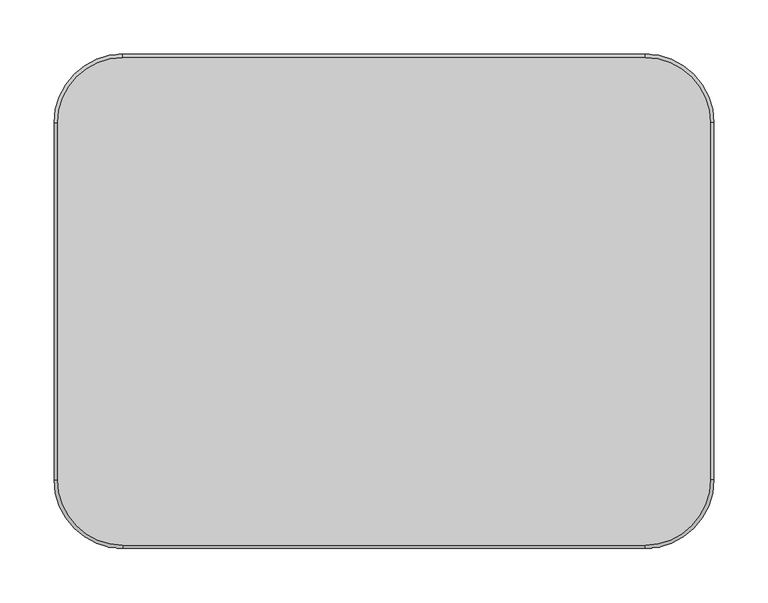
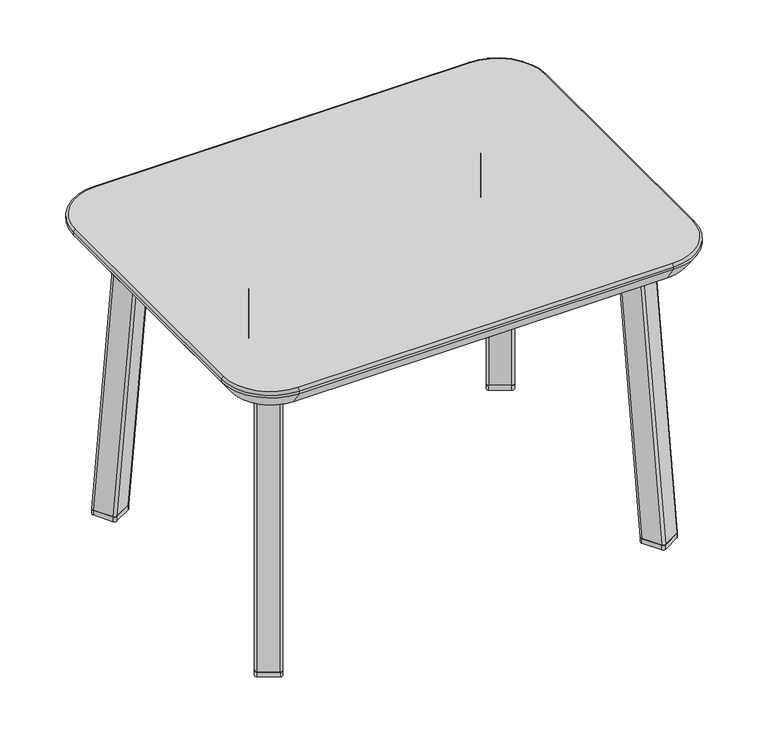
"""IFC4 building model written with IfcOpenShell, lengths in millimetres: furniture geometry, Stance_HC-Jensen-Occasional-Table : JETF182416-T."""

from ifc_helpers import new_model, si_unit, point, frame, frame_2d, origin, origin_with_axes, place, context, project, spatial, polyline, circle_curve, ellipse_curve, trimmed, segment, composite_curve, outline, extrude, source, transform, mapped, element, save
from ifc_brep_helpers import plane_surface, cylinder_surface, revolved_surface, extruded_surface, advanced_brep


def furniture_00482987(model_context):
    return source(origin(), model_context, "Body", "SolidModel", [
        extrude(outline(composite_curve([segment(polyline([(270.881574, -184.2321033), (248.8845247, -196.9321056)]), True, "CONTINUOUS"), segment(trimmed(circle_curve(frame_2d((247.2970247, -194.182475)), 3.175), [point((248.8845247, -196.9321056))], [point((244.547394, -195.769975))], False, "CARTESIAN"), True, "CONTINUOUS"), segment(polyline([(244.547394, -195.769975), (231.7983038, -173.687903)]), True, "CONTINUOUS"), segment(trimmed(circle_curve(frame_2d((234.5479345, -172.100403)), 3.175), [point((231.7983038, -173.687903))], [point((232.9604345, -169.3507723))], False, "CARTESIAN"), True, "CONTINUOUS"), segment(polyline([(232.9604345, -169.3507723), (254.9574838, -156.65077)]), True, "CONTINUOUS"), segment(trimmed(circle_curve(frame_2d((256.5449838, -159.4004007)), 3.175), [point((254.9574838, -156.65077))], [point((259.2946144, -157.8129007))], False, "CARTESIAN"), True, "CONTINUOUS"), segment(polyline([(259.2946144, -157.8129007), (272.0437046, -179.8949726)]), True, "CONTINUOUS"), segment(trimmed(circle_curve(frame_2d((269.294074, -181.4824726)), 3.175), [point((272.0437046, -179.8949726))], [point((270.881574, -184.2321033))], False, "CARTESIAN"), True, "CONTINUOUS")], self_intersect=False)), origin_with_axes(), (0.0, 0.0, 1.0), 6.35),
        extrude(outline(composite_curve([segment(polyline([(248.8845247, 196.9321056), (270.881574, 184.2321033)]), True, "CONTINUOUS"), segment(trimmed(circle_curve(frame_2d((269.294074, 181.4824726)), 3.175), [point((270.881574, 184.2321033))], [point((272.0437046, 179.8949726))], False, "CARTESIAN"), True, "CONTINUOUS"), segment(polyline([(272.0437046, 179.8949726), (259.2946144, 157.8129007)]), True, "CONTINUOUS"), segment(trimmed(circle_curve(frame_2d((256.5449838, 159.4004007)), 3.175), [point((259.2946144, 157.8129007))], [point((254.9574838, 156.65077))], False, "CARTESIAN"), True, "CONTINUOUS"), segment(polyline([(254.9574838, 156.65077), (232.9604345, 169.3507723)]), True, "CONTINUOUS"), segment(trimmed(circle_curve(frame_2d((234.5479345, 172.100403)), 3.175), [point((232.9604345, 169.3507723))], [point((231.7983038, 173.687903))], False, "CARTESIAN"), True, "CONTINUOUS"), segment(polyline([(231.7983038, 173.687903), (244.547394, 195.769975)]), True, "CONTINUOUS"), segment(trimmed(circle_curve(frame_2d((247.2970247, 194.182475)), 3.175), [point((244.547394, 195.769975))], [point((248.8845247, 196.9321056))], False, "CARTESIAN"), True, "CONTINUOUS")], self_intersect=False)), origin_with_axes(), (0.0, 0.0, 1.0), 6.35),
        advanced_brep(
        [(218.1120024, -143.6325373, 380.5094413), (216.9498717, -147.9696679, 380.5094413), (229.6989619, -170.0517399, 380.5094413), (234.0360926, -171.2138706, 380.5094413), (256.0331418, -158.5138683, 380.5094413), (257.1952725, -154.1767376, 380.5094413), (244.4461823, -132.0946656, 380.5094413), (240.1090516, -130.932535, 380.5094413), (232.9604345, -169.3507723, 6.35), (254.9574838, -156.65077, 6.35), (259.2946144, -157.8129007, 6.35), (272.0437046, -179.8949726, 6.35), (270.881574, -184.2321033, 6.35), (248.8845247, -196.9321056, 6.35), (244.547394, -195.769975, 6.35), (231.7983038, -173.687903, 6.35)],
        [
            (0, 1, circle_curve(frame((219.6995024, -146.3821679, 380.5094413), z_axis=(0.0, 0.0, 1.0), x_axis=(-1.0, 0.0, 0.0)), 3.175)),
            (1, 2),
            (2, 3, circle_curve(frame((232.4485926, -168.4642399, 380.5094413), z_axis=(0.0, 0.0, 1.0), x_axis=(-1.0, 0.0, 0.0)), 3.175)),
            (3, 4),
            (4, 5, circle_curve(frame((254.4456418, -155.7642376, 380.5094413), z_axis=(0.0, 0.0, 1.0), x_axis=(-1.0, 0.0, 0.0)), 3.175)),
            (5, 6),
            (6, 7, circle_curve(frame((241.6965516, -133.6821656, 380.5094413), z_axis=(0.0, 0.0, 1.0), x_axis=(-1.0, 0.0, 0.0)), 3.175)),
            (7, 0),
            (8, 9),
            (9, 10, circle_curve(frame((256.5449838, -159.4004007, 6.35), z_axis=(0.0, 0.0, -1.0), x_axis=(-1.0, 0.0, 0.0)), 3.175)),
            (10, 11),
            (11, 12, circle_curve(frame((269.294074, -181.4824726, 6.35), z_axis=(0.0, 0.0, -1.0), x_axis=(-1.0, 0.0, 0.0)), 3.175)),
            (12, 13),
            (13, 14, circle_curve(frame((247.2970247, -194.182475, 6.35), z_axis=(0.0, 0.0, -1.0), x_axis=(-1.0, 0.0, 0.0)), 3.175)),
            (14, 15),
            (15, 8, circle_curve(frame((234.5479345, -172.100403, 6.35), z_axis=(0.0, 0.0, -1.0), x_axis=(-1.0, 0.0, 0.0)), 3.175)),
            (15, 1),
            (0, 8),
            (14, 2),
            (13, 3),
            (12, 4),
            (11, 5),
            (10, 6),
            (9, 7),
        ],
        [
            plane_surface(frame((237.0725721, -151.0732028, 380.5094413), z_axis=(0.0, 0.0, 1.0000000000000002), x_axis=(0.8660254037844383, 0.5000000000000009, 0.0))),
            plane_surface(frame((251.9210042, -176.7914378, 6.35), z_axis=(0.0, 0.0, -1.0000000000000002), x_axis=(0.8660254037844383, 0.5000000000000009, 0.0))),
            extruded_surface(trimmed(circle_curve(frame((219.6995024, -146.3821679, 380.5094413), z_axis=(0.0, 0.0, -1.0), x_axis=(-1.0, 0.0, 0.0)), 3.175), [point((216.9498717, -147.9696679, 380.5094413))], [point((218.1120024, -143.6325373, 380.5094413))], True, "CARTESIAN"), (14.848432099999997, -25.718235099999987, -374.15944129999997), 375.3361041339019),
            plane_surface(frame((238.1728489, -184.728939, 6.35), z_axis=(-0.8660254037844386, -0.5000000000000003, -5.1142628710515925e-09), x_axis=(-0.5000000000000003, 0.8660254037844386, 0.0))),
            extruded_surface(trimmed(circle_curve(frame((232.4485926, -168.4642399, 380.5094413), z_axis=(0.0, 0.0, -1.0), x_axis=(-1.0, 0.0, 0.0)), 3.175), [point((234.0360926, -171.2138706, 380.5094413))], [point((229.6989619, -170.0517399, 380.5094413))], True, "CARTESIAN"), (14.848432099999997, -25.718235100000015, -374.15944129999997), 375.3361041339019),
            plane_surface(frame((259.8830493, -190.5821045, 6.35), z_axis=(0.4984325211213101, -0.863310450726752, 0.07912071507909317), x_axis=(-0.8660254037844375, -0.500000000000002, 0.0))),
            extruded_surface(trimmed(circle_curve(frame((254.4456418, -155.7642376, 380.5094413), z_axis=(0.0, 0.0, -1.0), x_axis=(-1.0, 0.0, 0.0)), 3.175), [point((257.1952725, -154.1767376, 380.5094413))], [point((256.0331418, -158.5138683, 380.5094413))], True, "CARTESIAN"), (14.848432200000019, -25.718234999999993, -374.15944129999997), 375.3361041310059),
            plane_surface(frame((265.6691595, -168.8539367, 6.35), z_axis=(0.866025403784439, 0.4999999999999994, 5.114262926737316e-09), x_axis=(0.4999999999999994, -0.866025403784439, 0.0))),
            extruded_surface(trimmed(circle_curve(frame((241.6965516, -133.6821656, 380.5094413), z_axis=(0.0, 0.0, -1.0), x_axis=(-1.0, 0.0, 0.0)), 3.175), [point((240.1090516, -130.932535, 380.5094413))], [point((244.4461823, -132.0946656, 380.5094413))], True, "CARTESIAN"), (14.848432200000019, -25.718235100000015, -374.15944129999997), 375.336104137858),
            plane_surface(frame((243.9589591, -163.0007712, 6.35), z_axis=(-0.49843252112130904, 0.8633104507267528, -0.07912071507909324), x_axis=(0.8660254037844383, 0.5000000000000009, 0.0))),
        ],
        [
            (0, [[1, 2, 3, 4, 5, 6, 7, 8]]),
            (1, [[9, 10, 11, 12, 13, 14, 15, 16]]),
            (2, [[17, -1, 18, -16]]),
            (3, [[19, -2, -17, -15]]),
            (4, [[20, -3, -19, -14]]),
            (5, [[21, -4, -20, -13]]),
            (6, [[22, -5, -21, -12]]),
            (7, [[23, -6, -22, -11]]),
            (8, [[24, -7, -23, -10]]),
            (9, [[-18, -8, -24, -9]]),
        ],
    ),
        extrude(outline(polyline([(276.9820372, 175.8326548), (175.7982292, 0.0), (276.9820372, -175.8326548), (238.5068508, -197.9733992), (124.5820372, 0.0), (238.5068508, 197.9733992), (276.9820372, 175.8326548)])), frame((0.0, 0.0, 380.5094413), z_axis=(0.0, 0.0, 1.0), x_axis=(1.0, 0.0, 0.0)), (0.0, 0.0, 1.0), 3.1749879),
        advanced_brep(
        [(218.1120024, 143.6325373, 380.5094413), (240.1090516, 130.932535, 380.5094413), (244.4461823, 132.0946656, 380.5094413), (257.1952725, 154.1767376, 380.5094413), (256.0331418, 158.5138683, 380.5094413), (234.0360926, 171.2138706, 380.5094413), (229.6989619, 170.0517399, 380.5094413), (216.9498717, 147.9696679, 380.5094413), (232.9604345, 169.3507723, 6.35), (231.7983038, 173.687903, 6.35), (244.547394, 195.769975, 6.35), (248.8845247, 196.9321056, 6.35), (270.881574, 184.2321033, 6.35), (272.0437046, 179.8949726, 6.35), (259.2946144, 157.8129007, 6.35), (254.9574838, 156.65077, 6.35)],
        [
            (0, 1),
            (1, 2, circle_curve(frame((241.6965516, 133.6821656, 380.5094413), z_axis=(0.0, 0.0, 1.0), x_axis=(-1.0, 0.0, 0.0)), 3.175)),
            (2, 3),
            (3, 4, circle_curve(frame((254.4456418, 155.7642376, 380.5094413), z_axis=(0.0, 0.0, 1.0), x_axis=(-1.0, 0.0, 0.0)), 3.175)),
            (4, 5),
            (5, 6, circle_curve(frame((232.4485926, 168.4642399, 380.5094413), z_axis=(0.0, 0.0, 1.0), x_axis=(-1.0, 0.0, 0.0)), 3.175)),
            (6, 7),
            (7, 0, circle_curve(frame((219.6995024, 146.3821679, 380.5094413), z_axis=(0.0, 0.0, 1.0), x_axis=(-1.0, 0.0, 0.0)), 3.175)),
            (8, 9, circle_curve(frame((234.5479345, 172.100403, 6.35), z_axis=(0.0, 0.0, -1.0), x_axis=(-1.0, 0.0, 0.0)), 3.175)),
            (9, 10),
            (10, 11, circle_curve(frame((247.2970247, 194.182475, 6.35), z_axis=(0.0, 0.0, -1.0), x_axis=(-1.0, 0.0, 0.0)), 3.175)),
            (11, 12),
            (12, 13, circle_curve(frame((269.294074, 181.4824726, 6.35), z_axis=(0.0, 0.0, -1.0), x_axis=(-1.0, 0.0, 0.0)), 3.175)),
            (13, 14),
            (14, 15, circle_curve(frame((256.5449838, 159.4004007, 6.35), z_axis=(0.0, 0.0, -1.0), x_axis=(-1.0, 0.0, 0.0)), 3.175)),
            (15, 8),
            (8, 0),
            (7, 9),
            (6, 10),
            (5, 11),
            (4, 12),
            (3, 13),
            (2, 14),
            (1, 15),
        ],
        [
            plane_surface(frame((237.0725721, 151.0732028, 380.5094413), z_axis=(0.0, 0.0, 1.0), x_axis=(-0.8660254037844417, 0.49999999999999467, 0.0))),
            plane_surface(frame((251.9210042, 176.7914378, 6.35), z_axis=(0.0, 0.0, -1.0), x_axis=(-0.8660254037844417, 0.49999999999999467, 0.0))),
            extruded_surface(trimmed(circle_curve(frame((219.6995024, 146.3821679, 380.5094413), z_axis=(0.0, 0.0, -1.0), x_axis=(-1.0, 0.0, 0.0)), 3.175), [point((218.1120024, 143.6325373, 380.5094413))], [point((216.9498717, 147.9696679, 380.5094413))], True, "CARTESIAN"), (14.848432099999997, 25.718235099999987, -374.15944129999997), 375.3361041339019),
            plane_surface(frame((238.1728489, 184.728939, 6.35), z_axis=(-0.8660254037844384, 0.5000000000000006, -5.114262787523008e-09), x_axis=(0.5000000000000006, 0.8660254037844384, 0.0))),
            extruded_surface(trimmed(circle_curve(frame((232.4485926, 168.4642399, 380.5094413), z_axis=(0.0, 0.0, -1.0), x_axis=(-1.0, 0.0, 0.0)), 3.175), [point((229.6989619, 170.0517399, 380.5094413))], [point((234.0360926, 171.2138706, 380.5094413))], True, "CARTESIAN"), (14.848432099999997, 25.718235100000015, -374.15944129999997), 375.3361041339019),
            plane_surface(frame((259.8830493, 190.5821045, 6.35), z_axis=(0.4984325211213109, 0.8633104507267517, 0.07912071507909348), x_axis=(0.8660254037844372, -0.5000000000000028, 0.0))),
            extruded_surface(trimmed(circle_curve(frame((254.4456418, 155.7642376, 380.5094413), z_axis=(0.0, 0.0, -1.0), x_axis=(-1.0, 0.0, 0.0)), 3.175), [point((256.0331418, 158.5138683, 380.5094413))], [point((257.1952725, 154.1767376, 380.5094413))], True, "CARTESIAN"), (14.848432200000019, 25.718234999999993, -374.15944129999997), 375.3361041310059),
            plane_surface(frame((265.6691595, 168.8539367, 6.35), z_axis=(0.8660254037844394, -0.49999999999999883, 5.1142628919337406e-09), x_axis=(-0.49999999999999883, -0.8660254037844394, 0.0))),
            extruded_surface(trimmed(circle_curve(frame((241.6965516, 133.6821656, 380.5094413), z_axis=(0.0, 0.0, -1.0), x_axis=(-1.0, 0.0, 0.0)), 3.175), [point((244.4461823, 132.0946656, 380.5094413))], [point((240.1090516, 130.932535, 380.5094413))], True, "CARTESIAN"), (14.848432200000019, 25.718235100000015, -374.15944129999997), 375.336104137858),
            plane_surface(frame((243.9589591, 163.0007712, 6.35), z_axis=(-0.4984325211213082, -0.8633104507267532, -0.07912071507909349), x_axis=(-0.8660254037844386, 0.5000000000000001, 0.0))),
        ],
        [
            (0, [[1, 2, 3, 4, 5, 6, 7, 8]]),
            (1, [[9, 10, 11, 12, 13, 14, 15, 16]]),
            (2, [[17, -8, 18, -9]]),
            (3, [[-18, -7, 19, -10]]),
            (4, [[-19, -6, 20, -11]]),
            (5, [[-20, -5, 21, -12]]),
            (6, [[-21, -4, 22, -13]]),
            (7, [[-22, -3, 23, -14]]),
            (8, [[-23, -2, 24, -15]]),
            (9, [[-24, -1, -17, -16]]),
        ],
    ),
        extrude(outline(composite_curve([segment(trimmed(circle_curve(frame_2d((-267.890244, -181.4824726)), 3.175), [point((-269.477744, -184.2321033))], [point((-270.6398747, -179.8949726))], False, "CARTESIAN"), True, "CONTINUOUS"), segment(polyline([(-270.6398747, -179.8949726), (-257.8907845, -157.8129007)]), True, "CONTINUOUS"), segment(trimmed(circle_curve(frame_2d((-255.1411538, -159.4004007)), 3.175), [point((-257.8907845, -157.8129007))], [point((-253.5536538, -156.65077))], False, "CARTESIAN"), True, "CONTINUOUS"), segment(polyline([(-253.5536538, -156.65077), (-231.5566046, -169.3507723)]), True, "CONTINUOUS"), segment(trimmed(circle_curve(frame_2d((-233.1441046, -172.100403)), 3.175), [point((-231.5566046, -169.3507723))], [point((-230.3944739, -173.687903))], False, "CARTESIAN"), True, "CONTINUOUS"), segment(polyline([(-230.3944739, -173.687903), (-243.1435641, -195.769975)]), True, "CONTINUOUS"), segment(trimmed(circle_curve(frame_2d((-245.8931948, -194.182475)), 3.175), [point((-243.1435641, -195.769975))], [point((-247.4806948, -196.9321056))], False, "CARTESIAN"), True, "CONTINUOUS"), segment(polyline([(-247.4806948, -196.9321056), (-269.477744, -184.2321033)]), True, "CONTINUOUS")], self_intersect=False)), origin_with_axes(), (0.0, 0.0, 1.0), 6.35),
        extrude(outline(composite_curve([segment(trimmed(circle_curve(frame_2d((-245.8931948, 194.182475)), 3.175), [point((-247.4806948, 196.9321056))], [point((-243.1435641, 195.769975))], False, "CARTESIAN"), True, "CONTINUOUS"), segment(polyline([(-243.1435641, 195.769975), (-230.3944739, 173.687903)]), True, "CONTINUOUS"), segment(trimmed(circle_curve(frame_2d((-233.1441046, 172.100403)), 3.175), [point((-230.3944739, 173.687903))], [point((-231.5566046, 169.3507723))], False, "CARTESIAN"), True, "CONTINUOUS"), segment(polyline([(-231.5566046, 169.3507723), (-253.5536538, 156.65077)]), True, "CONTINUOUS"), segment(trimmed(circle_curve(frame_2d((-255.1411538, 159.4004007)), 3.175), [point((-253.5536538, 156.65077))], [point((-257.8907845, 157.8129007))], False, "CARTESIAN"), True, "CONTINUOUS"), segment(polyline([(-257.8907845, 157.8129007), (-270.6398747, 179.8949726)]), True, "CONTINUOUS"), segment(trimmed(circle_curve(frame_2d((-267.890244, 181.4824726)), 3.175), [point((-270.6398747, 179.8949726))], [point((-269.477744, 184.2321033))], False, "CARTESIAN"), True, "CONTINUOUS"), segment(polyline([(-269.477744, 184.2321033), (-247.4806948, 196.9321056)]), True, "CONTINUOUS")], self_intersect=False)), origin_with_axes(), (0.0, 0.0, 1.0), 6.35),
        advanced_brep(
        [(-216.7081724, -143.6325373, 380.5094413), (-238.7052217, -130.932535, 380.5094413), (-243.0423524, -132.0946656, 380.5094413), (-255.7914426, -154.1767376, 380.5094413), (-254.6293119, -158.5138683, 380.5094413), (-232.6322626, -171.2138706, 380.5094413), (-228.295132, -170.0517399, 380.5094413), (-215.5460418, -147.9696679, 380.5094413), (-231.5566046, -169.3507723, 6.35), (-230.3944739, -173.687903, 6.35), (-243.1435641, -195.769975, 6.35), (-247.4806948, -196.9321056, 6.35), (-269.477744, -184.2321033, 6.35), (-270.6398747, -179.8949726, 6.35), (-257.8907845, -157.8129007, 6.35), (-253.5536538, -156.65077, 6.35)],
        [
            (0, 1),
            (1, 2, circle_curve(frame((-240.2927217, -133.6821656, 380.5094413), z_axis=(0.0, 0.0, 1.0), x_axis=(1.0, 0.0, 0.0)), 3.175)),
            (2, 3),
            (3, 4, circle_curve(frame((-253.0418119, -155.7642376, 380.5094413), z_axis=(0.0, 0.0, 1.0), x_axis=(1.0, 0.0, 0.0)), 3.175)),
            (4, 5),
            (5, 6, circle_curve(frame((-231.0447626, -168.4642399, 380.5094413), z_axis=(0.0, 0.0, 1.0), x_axis=(1.0, 0.0, 0.0)), 3.175)),
            (6, 7),
            (7, 0, circle_curve(frame((-218.2956724, -146.3821679, 380.5094413), z_axis=(0.0, 0.0, 1.0), x_axis=(1.0, 0.0, 0.0)), 3.175)),
            (8, 9, circle_curve(frame((-233.1441046, -172.100403, 6.35), z_axis=(0.0, 0.0, -1.0), x_axis=(1.0, 0.0, 0.0)), 3.175)),
            (9, 10),
            (10, 11, circle_curve(frame((-245.8931948, -194.182475, 6.35), z_axis=(0.0, 0.0, -1.0), x_axis=(1.0, 0.0, 0.0)), 3.175)),
            (11, 12),
            (12, 13, circle_curve(frame((-267.890244, -181.4824726, 6.35), z_axis=(0.0, 0.0, -1.0), x_axis=(1.0, 0.0, 0.0)), 3.175)),
            (13, 14),
            (14, 15, circle_curve(frame((-255.1411538, -159.4004007, 6.35), z_axis=(0.0, 0.0, -1.0), x_axis=(1.0, 0.0, 0.0)), 3.175)),
            (15, 8),
            (8, 0),
            (7, 9),
            (6, 10),
            (5, 11),
            (4, 12),
            (3, 13),
            (2, 14),
            (1, 15),
        ],
        [
            plane_surface(frame((-235.6687422, -151.0732028, 380.5094413), z_axis=(0.0, 0.0, 1.0000000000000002), x_axis=(-0.8660254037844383, 0.5000000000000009, 0.0))),
            plane_surface(frame((-250.5171743, -176.7914378, 6.35), z_axis=(0.0, 0.0, -1.0000000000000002), x_axis=(-0.8660254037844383, 0.5000000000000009, 0.0))),
            extruded_surface(trimmed(circle_curve(frame((-233.1441046, -172.100403, 6.35), z_axis=(0.0, 0.0, 1.0), x_axis=(1.0, 0.0, 0.0)), 3.175), [point((-230.3944739, -173.687903, 6.35))], [point((-231.5566046, -169.3507723, 6.35))], True, "CARTESIAN"), (14.84843219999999, 25.718235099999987, 374.15944129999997), 375.336104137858),
            plane_surface(frame((-236.769019, -184.728939, 6.35), z_axis=(0.8660254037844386, -0.5000000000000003, -5.1142628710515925e-09), x_axis=(0.5000000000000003, 0.8660254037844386, 0.0))),
            extruded_surface(trimmed(circle_curve(frame((-245.8931948, -194.182475, 6.35), z_axis=(0.0, 0.0, 1.0), x_axis=(1.0, 0.0, 0.0)), 3.175), [point((-247.4806948, -196.9321056, 6.35))], [point((-243.1435641, -195.769975, 6.35))], True, "CARTESIAN"), (14.84843219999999, 25.718235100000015, 374.15944129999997), 375.336104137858),
            plane_surface(frame((-258.4792194, -190.5821045, 6.35), z_axis=(-0.4984325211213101, -0.863310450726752, 0.07912071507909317), x_axis=(0.8660254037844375, -0.500000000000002, 0.0))),
            extruded_surface(trimmed(circle_curve(frame((-267.890244, -181.4824726, 6.35), z_axis=(0.0, 0.0, 1.0), x_axis=(1.0, 0.0, 0.0)), 3.175), [point((-270.6398747, -179.8949726, 6.35))], [point((-269.477744, -184.2321033, 6.35))], True, "CARTESIAN"), (14.848432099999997, 25.718234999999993, 374.15944129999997), 375.3361041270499),
            plane_surface(frame((-264.2653296, -168.8539367, 6.35), z_axis=(-0.866025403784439, 0.4999999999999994, 5.114262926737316e-09), x_axis=(-0.4999999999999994, -0.866025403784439, 0.0))),
            extruded_surface(trimmed(circle_curve(frame((-255.1411538, -159.4004007, 6.35), z_axis=(0.0, 0.0, 1.0), x_axis=(1.0, 0.0, 0.0)), 3.175), [point((-253.5536538, -156.65077, 6.35))], [point((-257.8907845, -157.8129007, 6.35))], True, "CARTESIAN"), (14.848432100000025, 25.718235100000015, 374.15944129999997), 375.3361041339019),
            plane_surface(frame((-242.5551292, -163.0007712, 6.35), z_axis=(0.49843252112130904, 0.8633104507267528, -0.07912071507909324), x_axis=(-0.8660254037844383, 0.5000000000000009, 0.0))),
        ],
        [
            (0, [[1, 2, 3, 4, 5, 6, 7, 8]]),
            (1, [[9, 10, 11, 12, 13, 14, 15, 16]]),
            (2, [[-9, 17, -8, 18]]),
            (3, [[-10, -18, -7, 19]]),
            (4, [[-11, -19, -6, 20]]),
            (5, [[-12, -20, -5, 21]]),
            (6, [[-13, -21, -4, 22]]),
            (7, [[-14, -22, -3, 23]]),
            (8, [[-15, -23, -2, 24]]),
            (9, [[-16, -24, -1, -17]]),
        ],
    ),
        extrude(outline(polyline([(-275.5782073, 175.8326548), (-237.1030209, 197.9733992), (-123.1782073, 0.0), (-237.1030209, -197.9733992), (-275.5782073, -175.8326548), (-174.3943993, 0.0), (-275.5782073, 175.8326548)])), frame((0.0, 0.0, 380.5094413), z_axis=(0.0, 0.0, 1.0), x_axis=(1.0, 0.0, 0.0)), (0.0, 0.0, 1.0), 3.1749879),
        advanced_brep(
        [(-216.7081724, 143.6325373, 380.5094413), (-215.5460418, 147.9696679, 380.5094413), (-228.295132, 170.0517399, 380.5094413), (-232.6322626, 171.2138706, 380.5094413), (-254.6293119, 158.5138683, 380.5094413), (-255.7914426, 154.1767376, 380.5094413), (-243.0423524, 132.0946656, 380.5094413), (-238.7052217, 130.932535, 380.5094413), (-231.5566046, 169.3507723, 6.35), (-253.5536538, 156.65077, 6.35), (-257.8907845, 157.8129007, 6.35), (-270.6398747, 179.8949726, 6.35), (-269.477744, 184.2321033, 6.35), (-247.4806948, 196.9321056, 6.35), (-243.1435641, 195.769975, 6.35), (-230.3944739, 173.687903, 6.35)],
        [
            (0, 1, circle_curve(frame((-218.2956724, 146.3821679, 380.5094413), z_axis=(0.0, 0.0, 1.0), x_axis=(1.0, 0.0, 0.0)), 3.175)),
            (1, 2),
            (2, 3, circle_curve(frame((-231.0447626, 168.4642399, 380.5094413), z_axis=(0.0, 0.0, 1.0), x_axis=(1.0, 0.0, 0.0)), 3.175)),
            (3, 4),
            (4, 5, circle_curve(frame((-253.0418119, 155.7642376, 380.5094413), z_axis=(0.0, 0.0, 1.0), x_axis=(1.0, 0.0, 0.0)), 3.175)),
            (5, 6),
            (6, 7, circle_curve(frame((-240.2927217, 133.6821656, 380.5094413), z_axis=(0.0, 0.0, 1.0), x_axis=(1.0, 0.0, 0.0)), 3.175)),
            (7, 0),
            (8, 9),
            (9, 10, circle_curve(frame((-255.1411538, 159.4004007, 6.35), z_axis=(0.0, 0.0, -1.0), x_axis=(1.0, 0.0, 0.0)), 3.175)),
            (10, 11),
            (11, 12, circle_curve(frame((-267.890244, 181.4824726, 6.35), z_axis=(0.0, 0.0, -1.0), x_axis=(1.0, 0.0, 0.0)), 3.175)),
            (12, 13),
            (13, 14, circle_curve(frame((-245.8931948, 194.182475, 6.35), z_axis=(0.0, 0.0, -1.0), x_axis=(1.0, 0.0, 0.0)), 3.175)),
            (14, 15),
            (15, 8, circle_curve(frame((-233.1441046, 172.100403, 6.35), z_axis=(0.0, 0.0, -1.0), x_axis=(1.0, 0.0, 0.0)), 3.175)),
            (15, 1),
            (0, 8),
            (14, 2),
            (13, 3),
            (12, 4),
            (11, 5),
            (10, 6),
            (9, 7),
        ],
        [
            plane_surface(frame((-235.6687422, 151.0732028, 380.5094413), z_axis=(0.0, 0.0, 1.0), x_axis=(0.8660254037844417, 0.49999999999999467, 0.0))),
            plane_surface(frame((-250.5171743, 176.7914378, 6.35), z_axis=(0.0, 0.0, -1.0), x_axis=(0.8660254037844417, 0.49999999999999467, 0.0))),
            extruded_surface(trimmed(circle_curve(frame((-233.1441046, 172.100403, 6.35), z_axis=(0.0, 0.0, 1.0), x_axis=(1.0, 0.0, 0.0)), 3.175), [point((-231.5566046, 169.3507723, 6.35))], [point((-230.3944739, 173.687903, 6.35))], True, "CARTESIAN"), (14.84843219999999, -25.718235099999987, 374.15944129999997), 375.336104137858),
            plane_surface(frame((-236.769019, 184.728939, 6.35), z_axis=(0.8660254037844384, 0.5000000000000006, -5.114262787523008e-09), x_axis=(-0.5000000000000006, 0.8660254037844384, 0.0))),
            extruded_surface(trimmed(circle_curve(frame((-245.8931948, 194.182475, 6.35), z_axis=(0.0, 0.0, 1.0), x_axis=(1.0, 0.0, 0.0)), 3.175), [point((-243.1435641, 195.769975, 6.35))], [point((-247.4806948, 196.9321056, 6.35))], True, "CARTESIAN"), (14.84843219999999, -25.718235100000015, 374.15944129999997), 375.336104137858),
            plane_surface(frame((-258.4792194, 190.5821045, 6.35), z_axis=(-0.4984325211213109, 0.8633104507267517, 0.07912071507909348), x_axis=(-0.8660254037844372, -0.5000000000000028, 0.0))),
            extruded_surface(trimmed(circle_curve(frame((-267.890244, 181.4824726, 6.35), z_axis=(0.0, 0.0, 1.0), x_axis=(1.0, 0.0, 0.0)), 3.175), [point((-269.477744, 184.2321033, 6.35))], [point((-270.6398747, 179.8949726, 6.35))], True, "CARTESIAN"), (14.848432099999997, -25.718234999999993, 374.15944129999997), 375.3361041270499),
            plane_surface(frame((-264.2653296, 168.8539367, 6.35), z_axis=(-0.8660254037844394, -0.49999999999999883, 5.1142628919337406e-09), x_axis=(0.49999999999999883, -0.8660254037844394, 0.0))),
            extruded_surface(trimmed(circle_curve(frame((-255.1411538, 159.4004007, 6.35), z_axis=(0.0, 0.0, 1.0), x_axis=(1.0, 0.0, 0.0)), 3.175), [point((-257.8907845, 157.8129007, 6.35))], [point((-253.5536538, 156.65077, 6.35))], True, "CARTESIAN"), (14.848432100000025, -25.718235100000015, 374.15944129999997), 375.3361041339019),
            plane_surface(frame((-242.5551292, 163.0007712, 6.35), z_axis=(0.4984325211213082, -0.8633104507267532, -0.07912071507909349), x_axis=(0.8660254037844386, 0.5000000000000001, 0.0))),
        ],
        [
            (0, [[1, 2, 3, 4, 5, 6, 7, 8]]),
            (1, [[9, 10, 11, 12, 13, 14, 15, 16]]),
            (2, [[-16, 17, -1, 18]]),
            (3, [[-15, 19, -2, -17]]),
            (4, [[-14, 20, -3, -19]]),
            (5, [[-13, 21, -4, -20]]),
            (6, [[-12, 22, -5, -21]]),
            (7, [[-11, 23, -6, -22]]),
            (8, [[-10, 24, -7, -23]]),
            (9, [[-9, -18, -8, -24]]),
        ],
    ),
        advanced_brep(
        [(304.8, -165.1, 405.9094413), (241.3, -228.6, 405.9094413), (241.3, -228.6, 402.7343928), (304.8, -165.1, 402.7343928), (241.3, -215.2610718, 383.6844292), (291.4610718, -165.1, 383.6844292), (304.8, 165.1, 402.7343928), (304.8, 165.1, 405.9094413), (291.4610718, 165.1, 383.6844292), (241.3, 228.6, 402.7343928), (241.3, 228.6, 405.9094413), (241.3, 215.2610718, 383.6844292), (-241.3, 228.6, 402.7343928), (-241.3, 228.6, 405.9094413), (-241.3, 215.2610718, 383.6844292), (-304.8, 165.1, 402.7343928), (-304.8, 165.1, 405.9094413), (-291.4610718, 165.1, 383.6844292), (-304.8, -165.1, 402.7343928), (-304.8, -165.1, 405.9094413), (-291.4610718, -165.1, 383.6844292), (-241.3, -228.6, 402.7343928), (-241.3, -228.6, 405.9094413), (-241.3, -215.2610718, 383.6844292), (-301.625, 165.1, 409.0844413), (-301.625, -165.1, 409.0844413), (-241.3, -225.425, 409.0844413), (241.3, -225.425, 409.0844413), (301.625, -165.1, 409.0844413), (301.625, 165.1, 409.0844413), (241.3, 225.425, 409.0844413), (-241.3, 225.425, 409.0844413)],
        [
            (0, 1, circle_curve(frame((241.3, -165.1, 405.9094413), z_axis=(0.0, 0.0, -1.0), x_axis=(0.0, -1.0, 0.0)), 63.5)),
            (1, 2),
            (2, 3, circle_curve(frame((241.3, -165.1, 402.7343928), z_axis=(0.0, 0.0, 1.0), x_axis=(0.0, -1.0, 0.0)), 63.5)),
            (3, 0),
            (2, 4),
            (4, 5, circle_curve(frame((241.3, -165.1, 383.6844292), z_axis=(0.0, 0.0, 1.0), x_axis=(0.0, -1.0, 0.0)), 50.1610718)),
            (5, 3),
            (3, 6),
            (6, 7),
            (7, 0),
            (5, 8),
            (8, 6),
            (6, 9, circle_curve(frame((241.3, 165.1, 402.7343928), z_axis=(0.0, 0.0, 1.0), x_axis=(1.0, 0.0, 0.0)), 63.5)),
            (9, 10),
            (10, 7, circle_curve(frame((241.3, 165.1, 405.9094413), z_axis=(0.0, 0.0, -1.0), x_axis=(1.0, 0.0, 0.0)), 63.5)),
            (8, 11, circle_curve(frame((241.3, 165.1, 383.6844292), z_axis=(0.0, 0.0, 1.0), x_axis=(1.0, 0.0, 0.0)), 50.1610718)),
            (11, 9),
            (9, 12),
            (12, 13),
            (13, 10),
            (11, 14),
            (14, 12),
            (12, 15, circle_curve(frame((-241.3, 165.1, 402.7343928), z_axis=(0.0, 0.0, 1.0), x_axis=(0.0, 1.0, 0.0)), 63.5)),
            (15, 16),
            (16, 13, circle_curve(frame((-241.3, 165.1, 405.9094413), z_axis=(0.0, 0.0, -1.0), x_axis=(0.0, 1.0, 0.0)), 63.5)),
            (14, 17, circle_curve(frame((-241.3, 165.1, 383.6844292), z_axis=(0.0, 0.0, 1.0), x_axis=(0.0, 1.0, 0.0)), 50.1610718)),
            (17, 15),
            (15, 18),
            (18, 19),
            (19, 16),
            (17, 20),
            (20, 18),
            (18, 21, circle_curve(frame((-241.3, -165.1, 402.7343928), z_axis=(0.0, 0.0, 1.0), x_axis=(-1.0, 0.0, 0.0)), 63.5)),
            (21, 22),
            (22, 19, circle_curve(frame((-241.3, -165.1, 405.9094413), z_axis=(0.0, 0.0, -1.0), x_axis=(-1.0, 0.0, 0.0)), 63.5)),
            (20, 23, circle_curve(frame((-241.3, -165.1, 383.6844292), z_axis=(0.0, 0.0, 1.0), x_axis=(-1.0, 0.0, 0.0)), 50.1610718)),
            (23, 21),
            (1, 22),
            (21, 2),
            (24, 25),
            (25, 26, circle_curve(frame((-241.3, -165.1, 409.0844413), z_axis=(0.0, 0.0, 1.0), x_axis=(-1.0, 0.0, 0.0)), 60.325)),
            (26, 27),
            (27, 28, circle_curve(frame((241.3, -165.1, 409.0844413), z_axis=(0.0, 0.0, 1.0), x_axis=(0.0, -1.0, 0.0)), 60.325)),
            (28, 29),
            (29, 30, circle_curve(frame((241.3, 165.1, 409.0844413), z_axis=(0.0, 0.0, 1.0), x_axis=(1.0, 0.0, 0.0)), 60.325)),
            (30, 31),
            (31, 24, circle_curve(frame((-241.3, 165.1, 409.0844413), z_axis=(0.0, 0.0, 1.0), x_axis=(0.0, 1.0, 0.0)), 60.325)),
            (4, 23),
            (0, 28, circle_curve(frame((301.625, -165.1, 405.9094413), z_axis=(0.0, -1.0, 0.0), x_axis=(-1.0, 0.0, 0.0)), 3.175)),
            (27, 1, circle_curve(frame((241.3, -225.425, 405.9094413), z_axis=(1.0, 0.0, 0.0), x_axis=(0.0, 1.0, 0.0)), 3.175)),
            (7, 29, circle_curve(frame((301.625, 165.1, 405.9094413), z_axis=(0.0, -1.0, 0.0), x_axis=(-1.0, 0.0, 0.0)), 3.175)),
            (10, 30, circle_curve(frame((241.3, 225.425, 405.9094413), z_axis=(1.0, 0.0, 0.0), x_axis=(0.0, -1.0, 0.0)), 3.175)),
            (13, 31, circle_curve(frame((-241.3, 225.425, 405.9094413), z_axis=(1.0, 0.0, 0.0), x_axis=(0.0, -1.0, 0.0)), 3.175)),
            (16, 24, circle_curve(frame((-301.625, 165.1, 405.9094413), z_axis=(0.0, 1.0, 0.0), x_axis=(1.0, 0.0, 0.0)), 3.175)),
            (19, 25, circle_curve(frame((-301.625, -165.1, 405.9094413), z_axis=(0.0, 1.0, 0.0), x_axis=(1.0, 0.0, 0.0)), 3.175)),
            (22, 26, circle_curve(frame((-241.3, -225.425, 405.9094413), z_axis=(-1.0, 0.0, 0.0), x_axis=(0.0, 1.0, 0.0)), 3.175)),
        ],
        [
            cylinder_surface(frame((241.3, -165.1, 409.0844413), z_axis=(0.0, 0.0, 1.0), x_axis=(0.0, -1.0, 0.0)), 63.5),
            revolved_surface(polyline([(241.3, -215.2610718, 383.6844292), (241.3, -228.6, 402.7343928)]), (241.3, -165.1, 409.0844413), (0.0, 0.0, 1.0)),
            plane_surface(frame((304.8, -165.1, 402.7343928), z_axis=(1.0, 0.0, 0.0), x_axis=(0.0, 1.0, 0.0))),
            plane_surface(frame((291.4610718, -165.1, 383.6844292), z_axis=(0.8191520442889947, 0.0, -0.5735764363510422), x_axis=(0.0, 1.0, 0.0))),
            cylinder_surface(frame((241.3, 165.1, 409.0844413), z_axis=(0.0, 0.0, 1.0), x_axis=(1.0, 0.0, 0.0)), 63.5),
            revolved_surface(polyline([(291.4610718, 165.1, 383.6844292), (304.8, 165.1, 402.7343928)]), (241.3, 165.1, 409.0844413), (0.0, 0.0, 1.0)),
            plane_surface(frame((241.3, 228.6, 402.7343928), z_axis=(0.0, 1.0, 0.0), x_axis=(-1.0, 0.0, 0.0))),
            plane_surface(frame((241.3, 215.2610718, 383.6844292), z_axis=(0.0, 0.8191520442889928, -0.5735764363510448), x_axis=(-1.0, 0.0, 0.0))),
            cylinder_surface(frame((-241.3, 165.1, 409.0844413), z_axis=(0.0, 0.0, 1.0), x_axis=(0.0, 1.0, 0.0)), 63.5),
            revolved_surface(polyline([(-241.3, 215.2610718, 383.6844292), (-241.3, 228.6, 402.7343928)]), (-241.3, 165.1, 409.0844413), (0.0, 0.0, 1.0)),
            plane_surface(frame((-304.8, 165.1, 402.7343928), z_axis=(-1.0, 0.0, 0.0), x_axis=(0.0, -1.0, 0.0))),
            plane_surface(frame((-291.4610718, 165.1, 383.6844292), z_axis=(-0.8191520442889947, 0.0, -0.5735764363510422), x_axis=(0.0, -1.0, 0.0))),
            cylinder_surface(frame((-241.3, -165.1, 409.0844413), z_axis=(0.0, 0.0, 1.0), x_axis=(-1.0, 0.0, 0.0)), 63.5),
            revolved_surface(polyline([(-291.4610718, -165.1, 383.6844292), (-304.8, -165.1, 402.7343928)]), (-241.3, -165.1, 409.0844413), (0.0, 0.0, 1.0)),
            plane_surface(frame((-241.3, -228.6, 402.7343928), z_axis=(0.0, -1.0, 0.0), x_axis=(1.0, 0.0, 0.0))),
            plane_surface(frame((-241.3, -225.425, 409.0844413), z_axis=(0.0, 0.0, 1.0), x_axis=(1.0, 0.0, 0.0))),
            plane_surface(frame((-241.3, -203.2000061, 383.6844292), z_axis=(0.0, 0.0, -1.0), x_axis=(1.0, 0.0, 0.0))),
            plane_surface(frame((-241.3, -215.2610718, 383.6844292), z_axis=(0.0, -0.8191520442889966, -0.5735764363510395), x_axis=(1.0, 0.0, 0.0))),
            revolved_surface(trimmed(ellipse_curve(frame((241.3, -225.425, 405.9094413), z_axis=(-1.0, 0.0, 0.0), x_axis=(0.0, 1.0, 0.0)), 3.175, 3.175), [point((241.3, -228.6, 405.9094413))], [point((241.3, -225.425, 409.0844413))], True, "CARTESIAN"), (241.3, -165.1, 409.0844413), (0.0, 0.0, 1.0)),
            cylinder_surface(frame((301.625, -165.1, 405.9094413), z_axis=(0.0, -1.0, 0.0), x_axis=(-1.0, 0.0, 0.0)), 3.175),
            revolved_surface(trimmed(ellipse_curve(frame((301.625, 165.1, 405.9094413), z_axis=(0.0, -1.0, 0.0), x_axis=(-1.0, 0.0, 0.0)), 3.175, 3.175), [point((304.8, 165.1, 405.9094413))], [point((301.625, 165.1, 409.0844413))], True, "CARTESIAN"), (241.3, 165.1, 409.0844413), (0.0, 0.0, 1.0)),
            cylinder_surface(frame((241.3, 225.425, 405.9094413), z_axis=(1.0, 0.0, 0.0), x_axis=(0.0, -1.0, 0.0)), 3.175),
            revolved_surface(trimmed(ellipse_curve(frame((-241.3, 225.425, 405.9094413), z_axis=(1.0, 0.0, 0.0), x_axis=(0.0, -1.0, 0.0)), 3.175, 3.175), [point((-241.3, 228.6, 405.9094413))], [point((-241.3, 225.425, 409.0844413))], True, "CARTESIAN"), (-241.3, 165.1, 409.0844413), (0.0, 0.0, 1.0)),
            cylinder_surface(frame((-301.625, 165.1, 405.9094413), z_axis=(0.0, 1.0, 0.0), x_axis=(1.0, 0.0, 0.0)), 3.175),
            revolved_surface(trimmed(ellipse_curve(frame((-301.625, -165.1, 405.9094413), z_axis=(0.0, 1.0, 0.0), x_axis=(1.0, 0.0, 0.0)), 3.175, 3.175), [point((-304.8, -165.1, 405.9094413))], [point((-301.625, -165.1, 409.0844413))], True, "CARTESIAN"), (-241.3, -165.1, 409.0844413), (0.0, 0.0, 1.0)),
            cylinder_surface(frame((-241.3, -225.425, 405.9094413), z_axis=(-1.0, 0.0, 0.0), x_axis=(0.0, 1.0, 0.0)), 3.175),
        ],
        [
            (0, [[1, 2, 3, 4]]),
            (1, [[-3, 5, 6, 7]]),
            (2, [[-4, 8, 9, 10]]),
            (3, [[-7, 11, 12, -8]]),
            (4, [[-9, 13, 14, 15]]),
            (5, [[-12, 16, 17, -13]]),
            (6, [[-14, 18, 19, 20]]),
            (7, [[-17, 21, 22, -18]]),
            (8, [[-19, 23, 24, 25]]),
            (9, [[-22, 26, 27, -23]]),
            (10, [[-24, 28, 29, 30]]),
            (11, [[-27, 31, 32, -28]]),
            (12, [[-29, 33, 34, 35]]),
            (13, [[-32, 36, 37, -33]]),
            (14, [[-2, 38, -34, 39]]),
            (15, [[40, 41, 42, 43, 44, 45, 46, 47]]),
            (16, [[-6, 48, -36, -31, -26, -21, -16, -11]]),
            (17, [[-5, -39, -37, -48]]),
            (18, [[-1, 49, -43, 50]]),
            (19, [[-10, 51, -44, -49]]),
            (20, [[-15, 52, -45, -51]]),
            (21, [[-20, 53, -46, -52]]),
            (22, [[-25, 54, -47, -53]]),
            (23, [[-30, 55, -40, -54]]),
            (24, [[-35, 56, -41, -55]]),
            (25, [[-38, -50, -42, -56]]),
        ],
    ),
    ])


if __name__ == "__main__":
    model = new_model("IFC4")
    model_context = context("Model", 3, world=origin())
    ifc_project = project(units=[si_unit("LENGTHUNIT", "METRE", prefix="MILLI")], contexts=[model_context])
    site = spatial("IfcSite", under=ifc_project)
    building = spatial("IfcBuilding", under=site)
    placement = place(None, origin())
    furniture_shape = furniture_00482987(model_context)
    element("IfcFurniture", 1, ObjectType="Stance_HC-Jensen-Occasional-Table : JETF182416-T", at=placement, inside=building, context=model_context, shape_type="MappedRepresentation", body=[
        mapped(furniture_shape, transform((0.0, 0.0, 0.0), x_axis=(1.0, 0.0, 0.0), y_axis=(0.0, 1.0, 0.0), z_axis=(0.0, 0.0, 1.0))),
    ])
    save(model, "model.ifc")
